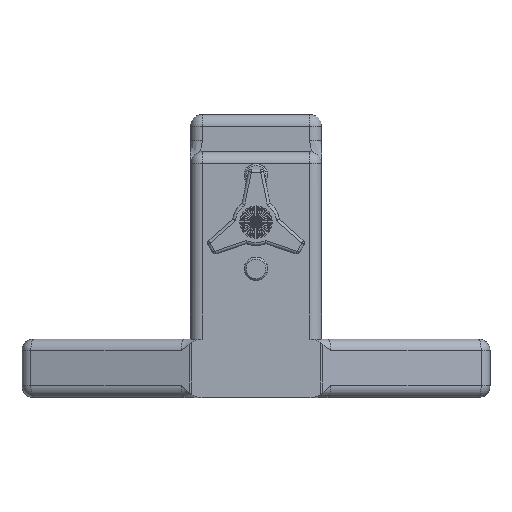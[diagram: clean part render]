
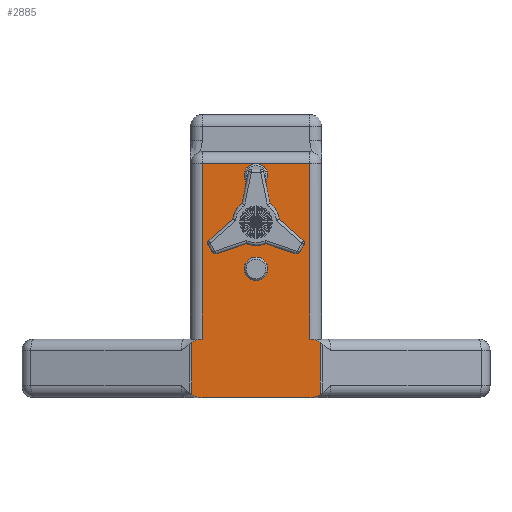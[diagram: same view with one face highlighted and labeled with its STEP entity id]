
A CAD part, front view. The second image highlights one B-rep face of the part: STEP entity #2885.
In plain terms, the highlighted planar face has unit normal (0, -1, 0).
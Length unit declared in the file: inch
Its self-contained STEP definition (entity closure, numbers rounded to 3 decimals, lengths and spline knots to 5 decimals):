
#672=CARTESIAN_POINT('',(11.09057,45.48413,49.31713));
#673=VERTEX_POINT('',#672);
#681=CARTESIAN_POINT('',(11.09057,45.48413,49.86983));
#682=VERTEX_POINT('',#681);
#683=CARTESIAN_POINT('',(11.09057,45.48413,49.86983));
#684=DIRECTION('',(0.0,0.0,-1.0));
#685=VECTOR('',#684,0.55269);
#686=LINE('',#683,#685);
#687=EDGE_CURVE('',#682,#673,#686,.T.);
#935=CARTESIAN_POINT('',(12.45979,45.48413,49.86983));
#936=VERTEX_POINT('',#935);
#944=CARTESIAN_POINT('',(12.45979,45.48413,49.31713));
#945=VERTEX_POINT('',#944);
#946=CARTESIAN_POINT('',(12.45979,45.48413,49.86983));
#947=DIRECTION('',(0.0,0.0,-1.0));
#948=VECTOR('',#947,0.55269);
#949=LINE('',#946,#948);
#950=EDGE_CURVE('',#945,#936,#949,.F.);
#1003=CARTESIAN_POINT('',(12.35018,45.48413,49.28098));
#1004=VERTEX_POINT('',#1003);
#1012=CARTESIAN_POINT('',(11.20018,45.48413,49.28098));
#1013=VERTEX_POINT('',#1012);
#1014=CARTESIAN_POINT('',(11.20018,45.48413,49.28098));
#1015=DIRECTION('',(1.0,0.0,0.0));
#1016=VECTOR('',#1015,1.15);
#1017=LINE('',#1014,#1016);
#1018=EDGE_CURVE('',#1013,#1004,#1017,.T.);
#1296=CARTESIAN_POINT('',(11.20018,45.48413,49.28098));
#1297=CARTESIAN_POINT('',(11.18087,45.48413,49.28098));
#1298=CARTESIAN_POINT('',(11.15808,45.48413,49.28516));
#1299=CARTESIAN_POINT('',(11.1235,45.48413,49.29736));
#1300=CARTESIAN_POINT('',(11.10542,45.48413,49.30662));
#1301=CARTESIAN_POINT('',(11.09057,45.48413,49.31713));
#1302=B_SPLINE_CURVE_WITH_KNOTS('',3,(#1296,#1297,#1298,#1299,#1300,#1301),.UNSPECIFIED.,.F.,.U.,(4,2,4),(0.49654,0.64365,0.77602),.UNSPECIFIED.);
#1303=EDGE_CURVE('',#1013,#673,#1302,.T.);
#1424=CARTESIAN_POINT('',(11.20018,45.48413,49.90598));
#1425=VERTEX_POINT('',#1424);
#1426=CARTESIAN_POINT('',(11.20018,45.48413,49.90598));
#1427=CARTESIAN_POINT('',(11.18087,45.48413,49.90598));
#1428=CARTESIAN_POINT('',(11.15808,45.48413,49.9018));
#1429=CARTESIAN_POINT('',(11.1235,45.48413,49.8896));
#1430=CARTESIAN_POINT('',(11.10542,45.48413,49.88034));
#1431=CARTESIAN_POINT('',(11.09057,45.48413,49.86983));
#1432=B_SPLINE_CURVE_WITH_KNOTS('',3,(#1426,#1427,#1428,#1429,#1430,#1431),.UNSPECIFIED.,.F.,.U.,(4,2,4),(-1.58359,-1.43647,-1.30411),.UNSPECIFIED.);
#1433=EDGE_CURVE('',#1425,#682,#1432,.T.);
#1566=CARTESIAN_POINT('',(12.35018,45.48413,49.28098));
#1567=CARTESIAN_POINT('',(12.36948,45.48413,49.28098));
#1568=CARTESIAN_POINT('',(12.39227,45.48413,49.28516));
#1569=CARTESIAN_POINT('',(12.42686,45.48413,49.29736));
#1570=CARTESIAN_POINT('',(12.44494,45.48413,49.30662));
#1571=CARTESIAN_POINT('',(12.45979,45.48413,49.31713));
#1572=B_SPLINE_CURVE_WITH_KNOTS('',3,(#1566,#1567,#1568,#1569,#1570,#1571),.UNSPECIFIED.,.F.,.U.,(4,2,4),(-1.58359,-1.43647,-1.30411),.UNSPECIFIED.);
#1573=EDGE_CURVE('',#1004,#945,#1572,.T.);
#1690=CARTESIAN_POINT('',(12.35018,45.48413,49.90598));
#1691=VERTEX_POINT('',#1690);
#1692=CARTESIAN_POINT('',(12.35018,45.48413,49.90598));
#1693=CARTESIAN_POINT('',(12.36948,45.48413,49.90598));
#1694=CARTESIAN_POINT('',(12.39227,45.48413,49.9018));
#1695=CARTESIAN_POINT('',(12.42686,45.48413,49.8896));
#1696=CARTESIAN_POINT('',(12.44494,45.48413,49.88034));
#1697=CARTESIAN_POINT('',(12.45979,45.48413,49.86983));
#1698=B_SPLINE_CURVE_WITH_KNOTS('',3,(#1692,#1693,#1694,#1695,#1696,#1697),.UNSPECIFIED.,.F.,.U.,(4,2,4),(0.49654,0.64365,0.77602),.UNSPECIFIED.);
#1699=EDGE_CURVE('',#1691,#936,#1698,.T.);
#2810=CARTESIAN_POINT('',(11.77518,45.48413,50.90598));
#2811=DIRECTION('',(0.0,1.0,0.0));
#2812=DIRECTION('',(-1.0,0.0,0.0));
#2813=AXIS2_PLACEMENT_3D('',#2810,#2811,#2812);
#2814=PLANE('',#2813);
#2815=CARTESIAN_POINT('',(11.20018,45.48413,51.78098));
#2816=VERTEX_POINT('',#2815);
#2817=CARTESIAN_POINT('',(11.20018,45.48413,49.90598));
#2818=DIRECTION('',(0.0,0.0,1.0));
#2819=VECTOR('',#2818,1.875);
#2820=LINE('',#2817,#2819);
#2821=EDGE_CURVE('',#1425,#2816,#2820,.T.);
#2822=ORIENTED_EDGE('',*,*,#2821,.F.);
#2823=ORIENTED_EDGE('',*,*,#1433,.T.);
#2824=ORIENTED_EDGE('',*,*,#687,.T.);
#2825=ORIENTED_EDGE('',*,*,#1303,.F.);
#2826=ORIENTED_EDGE('',*,*,#1018,.T.);
#2827=ORIENTED_EDGE('',*,*,#1573,.T.);
#2828=ORIENTED_EDGE('',*,*,#950,.T.);
#2829=ORIENTED_EDGE('',*,*,#1699,.F.);
#2830=CARTESIAN_POINT('',(12.35018,45.48413,51.78098));
#2831=VERTEX_POINT('',#2830);
#2832=CARTESIAN_POINT('',(12.35018,45.48413,51.78098));
#2833=DIRECTION('',(0.0,0.0,-1.0));
#2834=VECTOR('',#2833,1.875);
#2835=LINE('',#2832,#2834);
#2836=EDGE_CURVE('',#2831,#1691,#2835,.T.);
#2837=ORIENTED_EDGE('',*,*,#2836,.F.);
#2838=CARTESIAN_POINT('',(11.78309,45.48413,51.78098));
#2839=VERTEX_POINT('',#2838);
#2840=CARTESIAN_POINT('',(11.78309,45.48413,51.78098));
#2841=DIRECTION('',(1.0,0.0,0.0));
#2842=VECTOR('',#2841,0.56709);
#2843=LINE('',#2840,#2842);
#2844=EDGE_CURVE('',#2839,#2831,#2843,.T.);
#2845=ORIENTED_EDGE('',*,*,#2844,.F.);
#2846=CARTESIAN_POINT('',(11.76727,45.48413,51.78098));
#2847=VERTEX_POINT('',#2846);
#2848=CARTESIAN_POINT('',(11.77518,45.48413,51.65598));
#2849=DIRECTION('',(0.0,1.0,0.0));
#2850=DIRECTION('',(-1.0,0.0,0.0));
#2851=AXIS2_PLACEMENT_3D('',#2848,#2849,#2850);
#2852=CIRCLE('',#2851,0.12525);
#2853=EDGE_CURVE('',#2839,#2847,#2852,.T.);
#2854=ORIENTED_EDGE('',*,*,#2853,.T.);
#2855=CARTESIAN_POINT('',(11.20018,45.48413,51.78098));
#2856=DIRECTION('',(1.0,0.0,0.0));
#2857=VECTOR('',#2856,0.56709);
#2858=LINE('',#2855,#2857);
#2859=EDGE_CURVE('',#2816,#2847,#2858,.T.);
#2860=ORIENTED_EDGE('',*,*,#2859,.F.);
#2861=EDGE_LOOP('',(#2822,#2823,#2824,#2825,#2826,#2827,#2828,#2829,#2837,#2845,#2854,#2860));
#2862=FACE_OUTER_BOUND('',#2861,.T.);
#2863=CARTESIAN_POINT('',(11.64993,45.48413,50.65598));
#2864=VERTEX_POINT('',#2863);
#2865=CARTESIAN_POINT('',(11.77518,45.48413,50.65598));
#2866=DIRECTION('',(0.0,1.0,0.0));
#2867=DIRECTION('',(-1.0,0.0,0.0));
#2868=AXIS2_PLACEMENT_3D('',#2865,#2866,#2867);
#2869=CIRCLE('',#2868,0.12525);
#2870=EDGE_CURVE('',#2864,#2864,#2869,.T.);
#2871=ORIENTED_EDGE('',*,*,#2870,.T.);
#2872=EDGE_LOOP('',(#2871));
#2873=FACE_BOUND('',#2872,.T.);
#2874=CARTESIAN_POINT('',(11.65018,45.48413,51.15598));
#2875=VERTEX_POINT('',#2874);
#2876=CARTESIAN_POINT('',(11.77518,45.48413,51.15598));
#2877=DIRECTION('',(0.0,1.0,0.0));
#2878=DIRECTION('',(-1.0,0.0,0.0));
#2879=AXIS2_PLACEMENT_3D('',#2876,#2877,#2878);
#2880=CIRCLE('',#2879,0.125);
#2881=EDGE_CURVE('',#2875,#2875,#2880,.T.);
#2882=ORIENTED_EDGE('',*,*,#2881,.T.);
#2883=EDGE_LOOP('',(#2882));
#2884=FACE_BOUND('',#2883,.T.);
#2885=ADVANCED_FACE('',(#2862,#2873,#2884),#2814,.F.);
